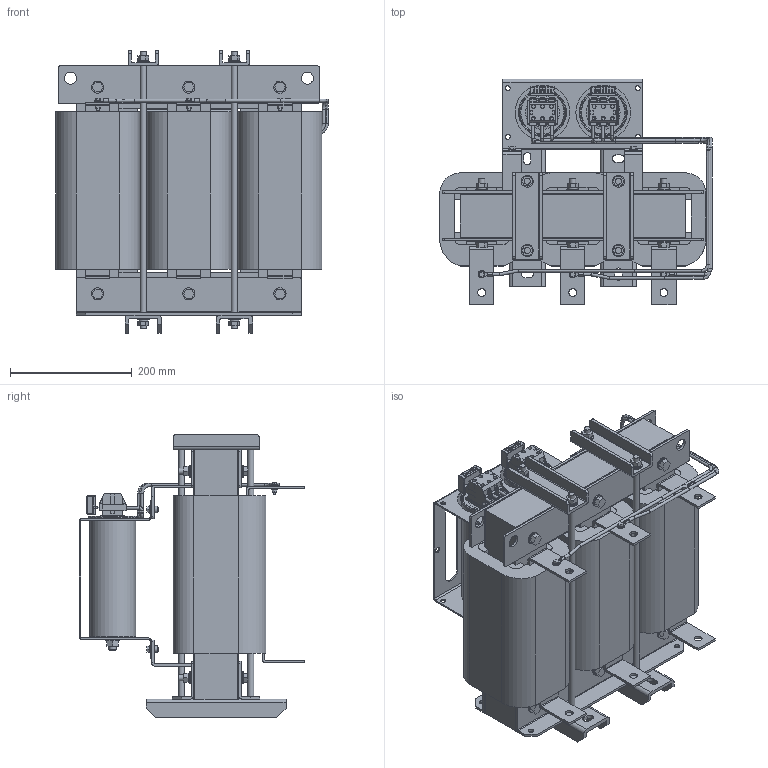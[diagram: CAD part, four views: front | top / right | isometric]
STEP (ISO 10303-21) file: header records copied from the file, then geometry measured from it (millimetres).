
FILE_DESCRIPTION (( 'STEP AP203' ), '1' );
FILE_NAME ('蔓躅漤铋 耔眢耥 翳朦蝠 _ ISINOF-90_181-4.STEP', '2026-07-20T09:49:14', ( '' ), ( '' ), 'SwSTEP 2.0', 'SolidWorks 2021', '' );
FILE_SCHEMA (( 'CONFIG_CONTROL_DESIGN' ));
Length unit declared in the file: millimetre
Products named in the file (172): 90-110KW滤波电抗器380V50Hz_23; 90-110KW滤波电抗器380V50Hz_17; 90-110KW滤波电抗器380V50Hz_163; 90-110KW滤波电抗器380V50Hz_68; 90-110KW滤波电抗器380V50Hz_44; 90-110KW滤波电抗器380V50Hz_121; 90-110KW滤波电抗器380V50Hz_80; 90-110KW滤波电抗器380V50Hz_106; 90-110KW滤波电抗器380V50Hz_55; 90-110KW滤波电抗器380V50Hz_170; 90-110KW滤波电抗器380V50Hz_7; 90-110KW滤波电抗器380V50Hz_2; 90-110KW滤波电抗器380V50Hz_161; 90-110KW滤波电抗器380V50Hz_132; 90-110KW滤波电抗器380V50Hz_129; 90-110KW滤波电抗器380V50Hz_34; 90-110KW滤波电抗器380V50Hz_138; 90-110KW滤波电抗器380V50Hz_146; 90-110KW滤波电抗器380V50Hz_114; 90-110KW滤波电抗器380V50Hz_75; 90-110KW滤波电抗器380V50Hz_65; 90-110KW滤波电抗器380V50Hz_94; 90-110KW滤波电抗器380V50Hz_108; 90-110KW滤波电抗器380V50Hz_57; 90-110KW滤波电抗器380V50Hz_103; 90-110KW滤波电抗器380V50Hz_47; 90-110KW滤波电抗器380V50Hz_151; 90-110KW滤波电抗器380V50Hz_58; 90-110KW滤波电抗器380V50Hz_56; 90-110KW滤波电抗器380V50Hz_50; 90-110KW滤波电抗器380V50Hz_51; 90-110KW滤波电抗器380V50Hz_74; 90-110KW滤波电抗器380V50Hz_104; 90-110KW滤波电抗器380V50Hz_159; 90-110KW滤波电抗器380V50Hz_64; 90-110KW滤波电抗器380V50Hz_78; 90-110KW滤波电抗器380V50Hz_134; 90-110KW滤波电抗器380V50Hz_136; 90-110KW滤波电抗器380V50Hz_27; 90-110KW滤波电抗器380V50Hz_154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
Assembly tree (171 placements, depth 2):
  蔓躅漤铋 耔眢耥 翳朦蝠 _ ISINOF-90_181-4
    90-110KW滤波电抗器380V50Hz_140
    90-110KW滤波电抗器380V50Hz_116
    90-110KW滤波电抗器380V50Hz_163
    90-110KW滤波电抗器380V50Hz_27
    90-110KW滤波电抗器380V50Hz_161
    90-110KW滤波电抗器380V50Hz_151
    90-110KW滤波电抗器380V50Hz_125
    90-110KW滤波电抗器380V50Hz_13
    90-110KW滤波电抗器380V50Hz_158
    90-110KW滤波电抗器380V50Hz_54
    90-110KW滤波电抗器380V50Hz_17
    90-110KW滤波电抗器380V50Hz_136
    90-110KW滤波电抗器380V50Hz_73
    90-110KW滤波电抗器380V50Hz_104
    90-110KW滤波电抗器380V50Hz_99
    90-110KW滤波电抗器380V50Hz_169
    90-110KW滤波电抗器380V50Hz_46
    90-110KW滤波电抗器380V50Hz_96
    90-110KW滤波电抗器380V50Hz_105
    90-110KW滤波电抗器380V50Hz_90
    90-110KW滤波电抗器380V50Hz_28
    90-110KW滤波电抗器380V50Hz_134
    90-110KW滤波电抗器380V50Hz_131
    90-110KW滤波电抗器380V50Hz_53
    90-110KW滤波电抗器380V50Hz_42
    90-110KW滤波电抗器380V50Hz_25
    90-110KW滤波电抗器380V50Hz_154
    90-110KW滤波电抗器380V50Hz_44
    90-110KW滤波电抗器380V50Hz_87
    90-110KW滤波电抗器380V50Hz_75
    90-110KW滤波电抗器380V50Hz_166
    90-110KW滤波电抗器380V50Hz_30
    90-110KW滤波电抗器380V50Hz_93
    90-110KW滤波电抗器380V50Hz_91
    90-110KW滤波电抗器380V50Hz_139
    90-110KW滤波电抗器380V50Hz_155
    90-110KW滤波电抗器380V50Hz_156
    90-110KW滤波电抗器380V50Hz_52
    90-110KW滤波电抗器380V50Hz_127
    90-110KW滤波电抗器380V50Hz_21
    90-110KW滤波电抗器380V50Hz_108
    90-110KW滤波电抗器380V50Hz_43
    90-110KW滤波电抗器380V50Hz_123
    90-110KW滤波电抗器380V50Hz_2
    90-110KW滤波电抗器380V50Hz_95
    90-110KW滤波电抗器380V50Hz_89
    90-110KW滤波电抗器380V50Hz_51
    90-110KW滤波电抗器380V50Hz_165
    90-110KW滤波电抗器380V50Hz_115
    90-110KW滤波电抗器380V50Hz_100
    90-110KW滤波电抗器380V50Hz_9
    90-110KW滤波电抗器380V50Hz_114
    90-110KW滤波电抗器380V50Hz_7
    90-110KW滤波电抗器380V50Hz_47
    90-110KW滤波电抗器380V50Hz_36
    90-110KW滤波电抗器380V50Hz_137
    90-110KW滤波电抗器380V50Hz_26
    90-110KW滤波电抗器380V50Hz_85
    90-110KW滤波电抗器380V50Hz_58
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Bounding box: 448.45 x 371.5 x 464.91 mm (x, y, z)
Volume: 21177212.8 mm3; surface area: 2757866.1 mm2
Topology: 169 solids, 171 shells, 1935 faces, 4680 edges, 3095 vertices
Faces by surface type: plane 1335, cylinder 507, bspline 60, torus 29, cone 4
Full cylindrical faces by diameter (mm): 4.8 x3, 5 x35, 6 x12, 6.3 x24, 6.4 x3, 7 x3, 7.482 x2, 8 x8, 9 x4, 9.6 x6, 10 x12, 11 x4, 12 x6, 13 x8, 15.588 x14, 20 x36, 24 x2, 73 x2, 76 x2, 79 x2, 90 x2
Entity records: 79199 total; most frequent: CARTESIAN_POINT 15779, DIRECTION 9209, ORIENTED_EDGE 8830, EDGE_CURVE 4417, VECTOR 3231, LINE 3231, VERTEX_POINT 3061, AXIS2_PLACEMENT_3D 2989
